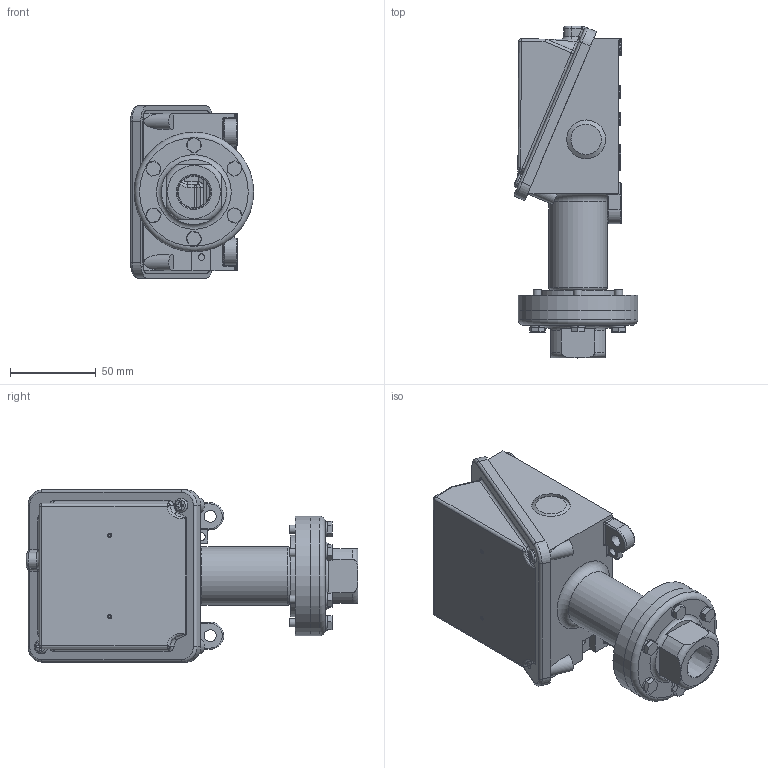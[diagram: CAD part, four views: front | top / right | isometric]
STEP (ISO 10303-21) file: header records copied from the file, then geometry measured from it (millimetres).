
FILE_DESCRIPTION (( 'STEP AP214' ), '1' );
FILE_NAME ('H100-183_186, 483_486_V1.STEP', '2025-02-28T14:57:11', ( '' ), ( '' ), 'SwSTEP 2.0', 'SolidWorks 2023', '' );
FILE_SCHEMA (( 'AUTOMOTIVE_DESIGN' ));
Length unit declared in the file: inch
Products named in the file (1): H100-183_186, 483_486_V1
Bounding box: 72.08 x 194.08 x 100.84 mm (x, y, z)
Surface area: 75851.9 mm2 (no closed solid volume)
Topology: 0 solids, 26 shells, 335 faces, 890 edges, 584 vertices
Faces by surface type: plane 152, cylinder 102, torus 45, bspline 19, sphere 10, cone 7
Full cylindrical faces by diameter (mm): 1.321 x2, 3.797 x1, 4.763 x1, 4.775 x6, 7.112 x2, 7.937 x2, 7.938 x2, 8.179 x2, 9.525 x2, 18.491 x1, 22.733 x2, 34.131 x1, 47.625 x1, 69.85 x2
Entity records: 11165 total; most frequent: CARTESIAN_POINT 3219, DIRECTION 1687, ORIENTED_EDGE 1444, EDGE_CURVE 824, AXIS2_PLACEMENT_3D 653, VERTEX_POINT 577, EDGE_LOOP 446, VECTOR 381
